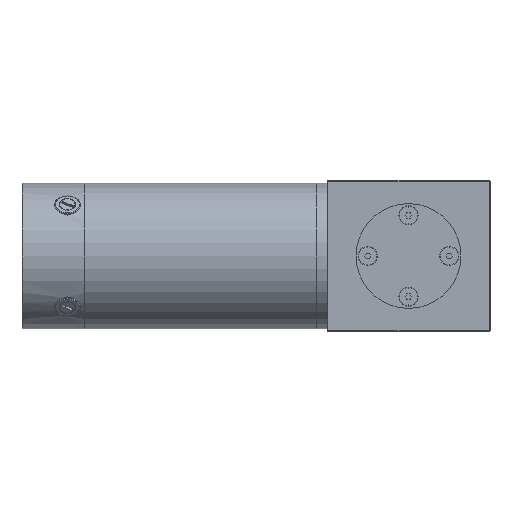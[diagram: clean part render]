
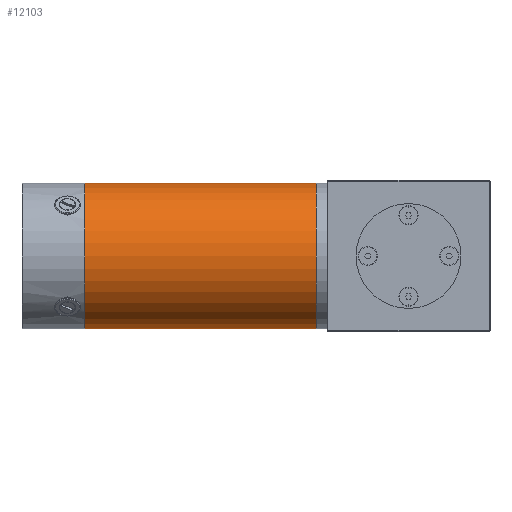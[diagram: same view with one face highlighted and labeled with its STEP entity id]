
A CAD part, left-side view. The second image highlights one B-rep face of the part: STEP entity #12103.
In plain terms, the highlighted cylindrical face has radius 39.685 mm (diameter 79.37 mm), a partial arc.
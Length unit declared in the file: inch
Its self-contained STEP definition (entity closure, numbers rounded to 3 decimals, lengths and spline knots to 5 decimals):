
#355 = DIRECTION ( 'NONE',  ( 0., -1., 0. ) ) ;
#642 = CARTESIAN_POINT ( 'NONE',  ( 9.26851, 3.73622, 0.0626 ) ) ;
#2766 = EDGE_CURVE ( 'NONE', #38121, #8621, #16646, .T. ) ;
#2945 = DIRECTION ( 'NONE',  ( 0., 0., 1. ) ) ;
#2972 = AXIS2_PLACEMENT_3D ( 'NONE', #40997, #49890, #48351 ) ;
#6681 = LINE ( 'NONE', #10148, #46503 ) ;
#7077 = VERTEX_POINT ( 'NONE', #47381 ) ;
#8217 = EDGE_CURVE ( 'NONE', #8621, #7077, #17563, .T. ) ;
#8621 = VERTEX_POINT ( 'NONE', #642 ) ;
#9407 = ORIENTED_EDGE ( 'NONE', *, *, #8217, .T. ) ;
#10148 = CARTESIAN_POINT ( 'NONE',  ( 9.26851, 19695.08937, 3.1874 ) ) ;
#12103 = ADVANCED_FACE ( 'NONE', ( #34648 ), #24156, .T. ) ;
#14747 = DIRECTION ( 'NONE',  ( 0., 1., 0. ) ) ;
#16646 = LINE ( 'NONE', #40255, #50824 ) ;
#17563 = CIRCLE ( 'NONE', #34167, 1.5624 ) ;
#18373 = VERTEX_POINT ( 'NONE', #53996 ) ;
#21135 = ORIENTED_EDGE ( 'NONE', *, *, #34112, .T. ) ;
#21339 = EDGE_LOOP ( 'NONE', ( #21135, #44509, #9407, #39435 ) ) ;
#24156 = CYLINDRICAL_SURFACE ( 'NONE', #2972, 1.5624 ) ;
#26298 = DIRECTION ( 'NONE',  ( 0., -1., 0. ) ) ;
#33483 = DIRECTION ( 'NONE',  ( 0., -1., 0. ) ) ;
#34112 = EDGE_CURVE ( 'NONE', #18373, #38121, #54184, .T. ) ;
#34167 = AXIS2_PLACEMENT_3D ( 'NONE', #36647, #14747, #41353 ) ;
#34369 = EDGE_CURVE ( 'NONE', #18373, #7077, #6681, .T. ) ;
#34648 = FACE_OUTER_BOUND ( 'NONE', #21339, .T. ) ;
#36647 = CARTESIAN_POINT ( 'NONE',  ( 9.26851, 3.73622, 1.625 ) ) ;
#38121 = VERTEX_POINT ( 'NONE', #41391 ) ;
#38162 = CARTESIAN_POINT ( 'NONE',  ( 9.26851, 8.7, 1.625 ) ) ;
#39435 = ORIENTED_EDGE ( 'NONE', *, *, #34369, .F. ) ;
#40255 = CARTESIAN_POINT ( 'NONE',  ( 9.26851, 19695.08937, 0.0626 ) ) ;
#40997 = CARTESIAN_POINT ( 'NONE',  ( 9.26851, 19695.08937, 1.625 ) ) ;
#41353 = DIRECTION ( 'NONE',  ( 0., 0., -1. ) ) ;
#41391 = CARTESIAN_POINT ( 'NONE',  ( 9.26851, 8.7, 0.0626 ) ) ;
#44509 = ORIENTED_EDGE ( 'NONE', *, *, #2766, .T. ) ;
#46503 = VECTOR ( 'NONE', #355, 39.37008 ) ;
#47381 = CARTESIAN_POINT ( 'NONE',  ( 9.26851, 3.73622, 3.1874 ) ) ;
#48351 = DIRECTION ( 'NONE',  ( 0., 0., 1. ) ) ;
#49890 = DIRECTION ( 'NONE',  ( 0., -1., 0. ) ) ;
#50824 = VECTOR ( 'NONE', #26298, 39.37008 ) ;
#53996 = CARTESIAN_POINT ( 'NONE',  ( 9.26851, 8.7, 3.1874 ) ) ;
#54184 = CIRCLE ( 'NONE', #56975, 1.5624 ) ;
#56975 = AXIS2_PLACEMENT_3D ( 'NONE', #38162, #33483, #2945 ) ;
